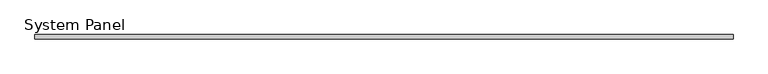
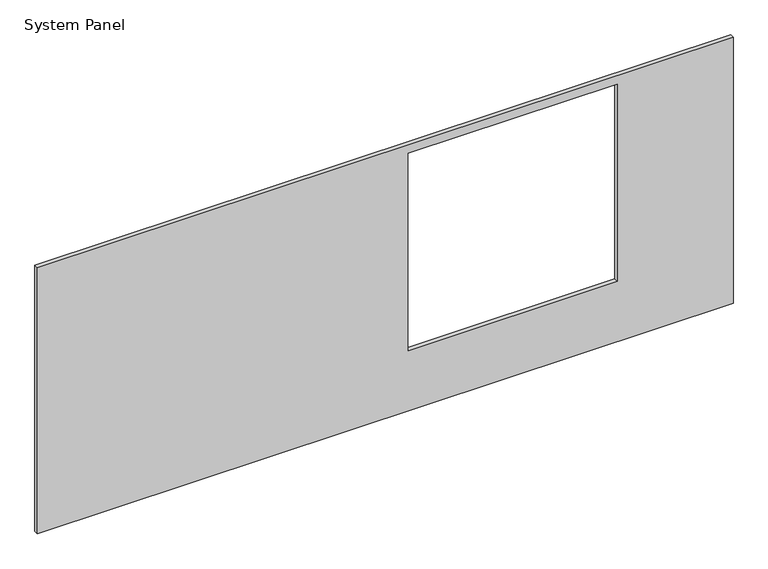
"""IFC4 building model written with IfcOpenShell, lengths in millimetres: plate geometry."""

from ifc_helpers import new_model, si_unit, frame, origin, place, context, project, spatial, polyline, outline, extrude, source, transform, mapped, element, save


def system_panel_1bcdafc3(model_context):
    return source(origin(), model_context, "Body", "SweptSolid", [
        extrude(outline(polyline([(0.0, -3048.0), (0.0, 3048.0), (2463.8, 3048.0), (2463.8, -3048.0), (0.0, -3048.0)]), holes=[polyline([(558.8, 2032.0), (558.8, 203.2), (2387.6, 203.2), (2387.6, 2032.0), (558.8, 2032.0)])]), frame((0.0, -19.05, 0.0), z_axis=(0.0, 1.0, 0.0), x_axis=(0.0, 0.0, 1.0)), (0.0, 0.0, 1.0), 38.1),
    ])


if __name__ == "__main__":
    model = new_model("IFC4")
    model_context = context("Model", 3, world=origin())
    ifc_project = project(units=[si_unit("LENGTHUNIT", "METRE", prefix="MILLI")], contexts=[model_context])
    site = spatial("IfcSite", under=ifc_project)
    building = spatial("IfcBuilding", under=site)
    placement = place(None, origin())
    system_panel_shape = system_panel_1bcdafc3(model_context)
    element("IfcPlate", 1, ObjectType="System Panel : 1/2\" Plywood & 1\" Rigid Ins.", at=placement, inside=building, context=model_context, shape_type="MappedRepresentation", body=[
        mapped(system_panel_shape, transform((0.0, 0.0, 0.0), x_axis=(1.0, 0.0, 0.0), y_axis=(0.0, 1.0, 0.0), z_axis=(0.0, 0.0, 1.0))),
    ])
    save(model, "model.ifc")
